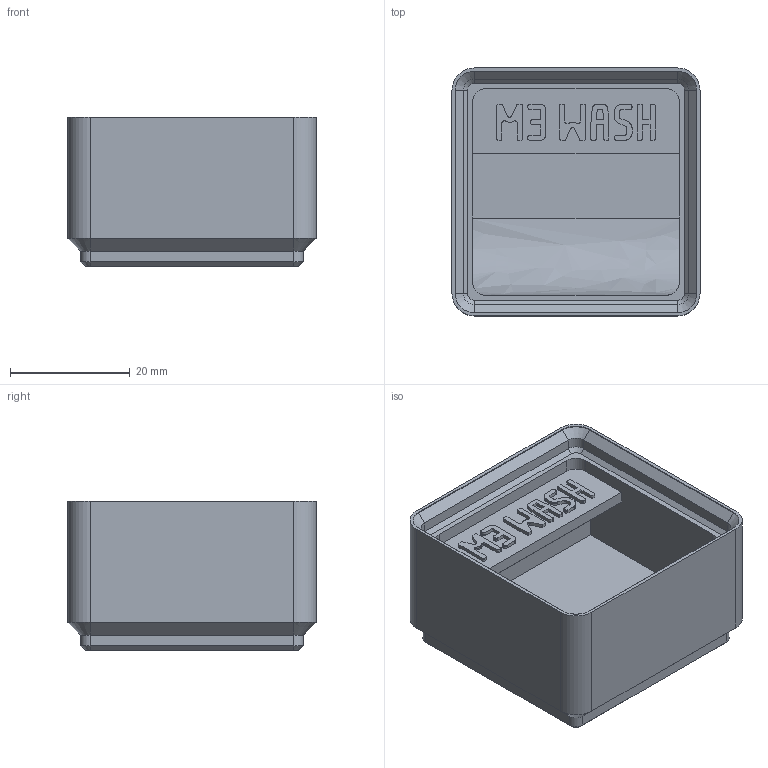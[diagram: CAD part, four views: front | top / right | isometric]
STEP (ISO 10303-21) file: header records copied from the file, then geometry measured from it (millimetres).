
FILE_DESCRIPTION(('Open CASCADE Model'),'2;1');
FILE_NAME('m3-washer','2026-11-17T16:08:12',('Author'),('Open CASCADE'), 'Open CASCADE STEP processor 8.0','build123d','Unknown');
FILE_SCHEMA(('AUTOMOTIVE_DESIGN { 1 0 10303 214 1 1 1 1 }'));
Products named in the file (1): m3-washer
Bounding box: 41.5 x 41.5 x 25 mm (x, y, z)
Volume: 22478.9 mm3; surface area: 9541.3 mm2
Topology: 1 solids, 1 shells, 759 faces, 2196 edges, 1448 vertices
Faces by surface type: plane 722, cylinder 20, cone 16, extrusion 1
Entity records: 51740 total; most frequent: CARTESIAN_POINT 10497, DIRECTION 6691, VECTOR 5063, LINE 5062, ORIENTED_EDGE 4392, PCURVE 4392, DEFINITIONAL_REPRESENTATION 4392, EDGE_CURVE 2196
